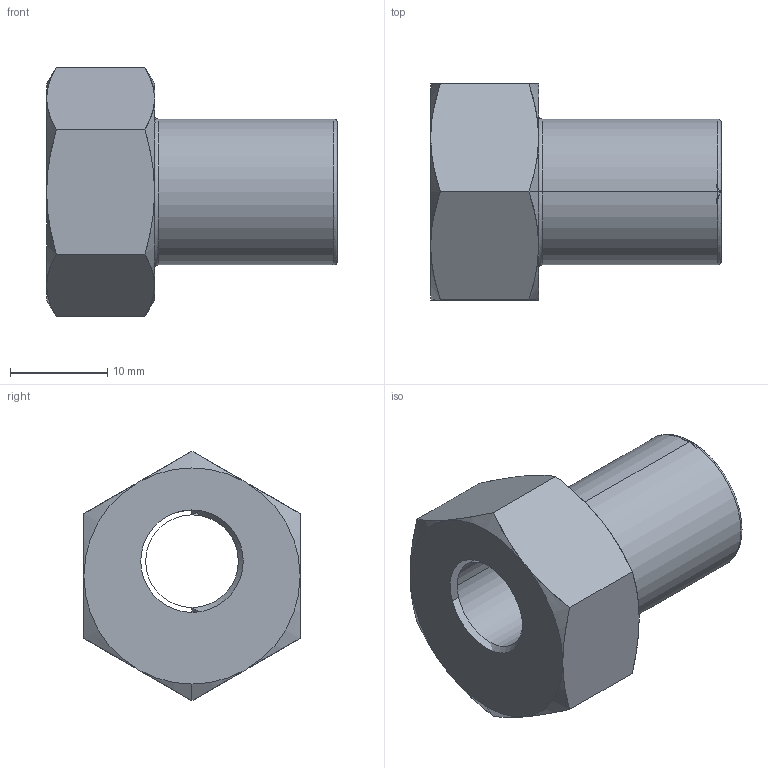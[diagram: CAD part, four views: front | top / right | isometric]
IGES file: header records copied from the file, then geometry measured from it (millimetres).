
Start section: 3D InterOp IGES (v. 2019 1.0.2), Spatial Corp. Copyright (c) 1999-2017.
Global section: file name: BX4SS.igs; native system: Spatial Corp.; preprocessor: 3D InterOp GENERIC/IGES 3.0; author: Noname; organization: Noname; date: 20200930.105803; units: millimetre
Bounding box: 29.89 x 22.22 x 25.66 mm (x, y, z)
Surface area: 3428.6 mm2 (no closed solid volume)
Topology: 0 solids, 0 shells, 35 faces, 184 edges, 182 vertices
Faces by surface type: revolution 26, extrusion 9
